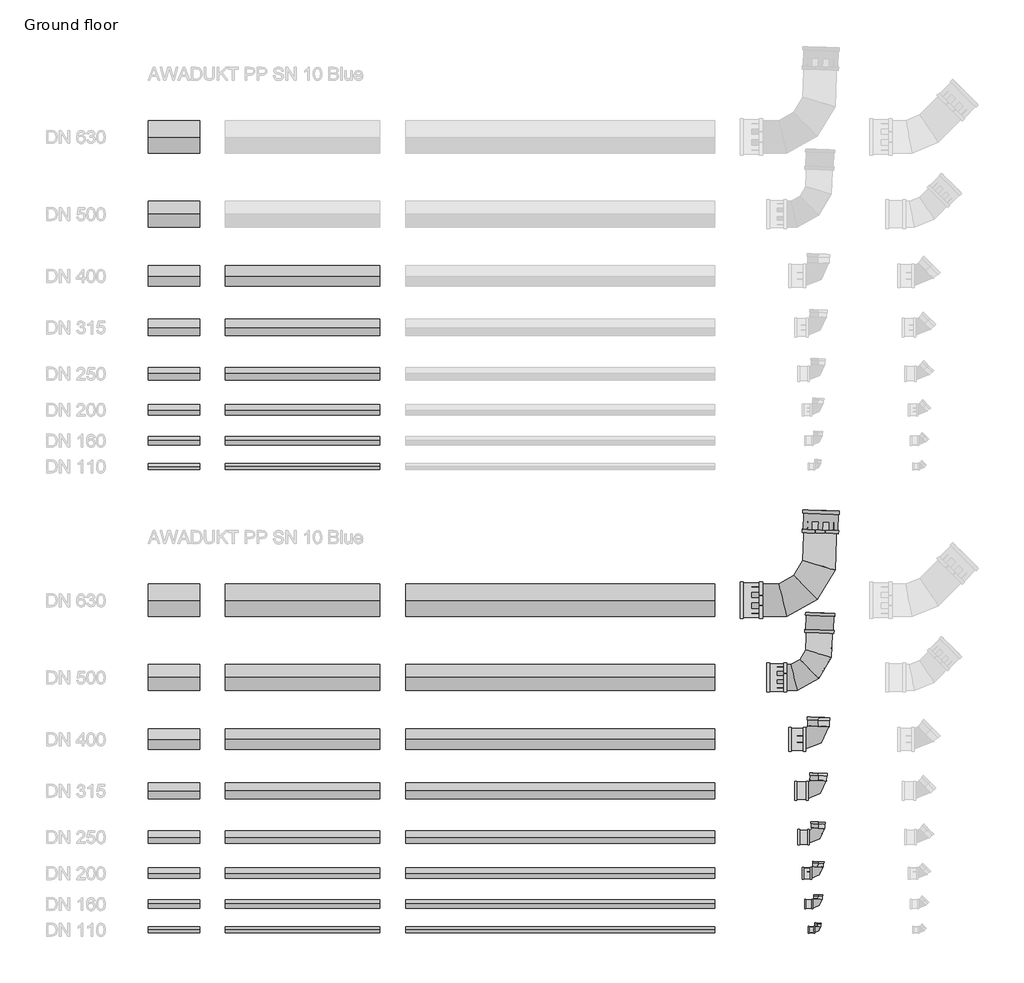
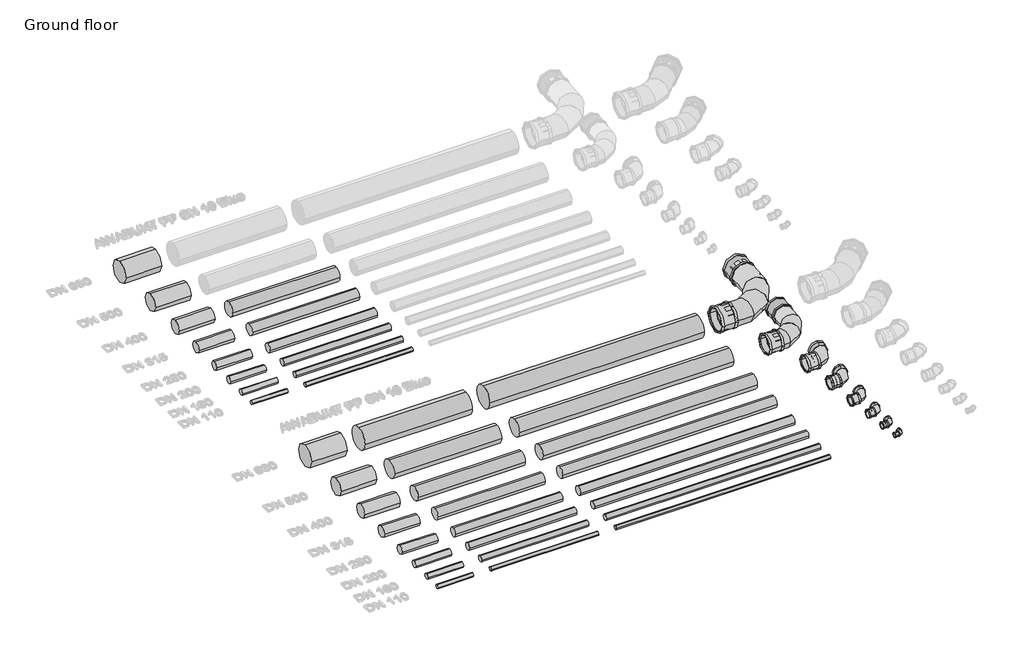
# One storey, part 1 of 14: 38 pipe segments, 18 pipe fittings.
"""IFC4 building model written with IfcOpenShell, lengths in millimetres."""

from ifc_helpers import new_model, si_unit, point, frame, frame_2d, origin, origin_2d, place, context, project, spatial, circle_curve, trimmed, segment, composite_curve, outline, extrude, transform, mapped, element, save
from components import pipe_fitting_366f8f33, pipe_fitting_0ebad727, pipe_fitting_3dc9645f, pipe_fitting_b5a722ff, pipe_fitting_a818c1c7, pipe_fitting_e5a81f0f, pipe_fitting_9bc79c39, pipe_fitting_2c23b5e5, blue_626d8923, blue_a2c14ece, blue_55e6ac91, blue_4c46b765, blue_4c692024, blue_db9835d6, blue_7109e013, blue_2595d2eb

model = new_model("IFC4")

# Units and contexts
model_context = context("Model", 3, world=origin())
ifc_project = project(units=[si_unit("LENGTHUNIT", "METRE", prefix="MILLI")], contexts=[model_context])

# Site, building, storey
site = spatial("IfcSite", under=ifc_project)
building = spatial("IfcBuilding", under=site)
storey = spatial("IfcBuildingStorey", under=building, Name="Ground floor", Elevation=0.0)

# Pipe fittings
placement = place(None, origin())
pipe_fitting_shape = pipe_fitting_366f8f33(model_context)
element("IfcPipeFitting", 1, ObjectType="AWADUKT PP Union DSM : Blue No PID", at=placement, inside=storey, context=model_context, shape_type="MappedRepresentation", body=[
    mapped(pipe_fitting_shape, transform((31055.6434717, 7917.480166, 0.0), x_axis=(0.036643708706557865, 0.9993283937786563, 0.0), y_axis=(-0.9993283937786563, 0.036643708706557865, 0.0), z_axis=(0.0, 0.0, 1.0))),
])
element("IfcPipeFitting", 2, ObjectType="AWADUKT PP Union DSM : Blue No PID", at=placement, inside=storey, context=model_context, shape_type="MappedRepresentation", body=[
    mapped(pipe_fitting_shape, transform((29705.5, 6400.0, 0.0), x_axis=(1.0, 0.0, 0.0), y_axis=(0.0, 1.0, 0.0), z_axis=(0.0, 0.0, 1.0))),
])
pipe_fitting_2_shape = pipe_fitting_0ebad727(model_context)
element("IfcPipeFitting", 3, ObjectType="AWADUKT PP Union DSM : Blue No PID", at=placement, inside=storey, context=model_context, shape_type="MappedRepresentation", body=[
    mapped(pipe_fitting_2_shape, transform((30875.0, 0.0, 0.0), x_axis=(1.0, 0.0, 0.0), y_axis=(0.0, 1.0, 0.0), z_axis=(0.0, 0.0, 1.0))),
])
pipe_fitting_3_shape = pipe_fitting_3dc9645f(model_context)
element("IfcPipeFitting", 4, ObjectType="AWADUKT PP Union DSM : Blue No PID", at=placement, inside=storey, context=model_context, shape_type="MappedRepresentation", body=[
    mapped(pipe_fitting_3_shape, transform((30826.0, 500.0, 0.0), x_axis=(1.0, 0.0, 0.0), y_axis=(0.0, 1.0, 0.0), z_axis=(0.0, 0.0, 1.0))),
])
pipe_fitting_4_shape = pipe_fitting_b5a722ff(model_context)
element("IfcPipeFitting", 5, ObjectType="AWADUKT PP Union DSM : Blue No PID", at=placement, inside=storey, context=model_context, shape_type="MappedRepresentation", body=[
    mapped(pipe_fitting_4_shape, transform((30788.5, 1100.0, 0.0), x_axis=(1.0, 0.0, 0.0), y_axis=(0.0, 1.0, 0.0), z_axis=(0.0, 0.0, 1.0))),
])
pipe_fitting_5_shape = pipe_fitting_a818c1c7(model_context)
element("IfcPipeFitting", 6, ObjectType="AWADUKT PP Union DSM : Blue No PID", at=placement, inside=storey, context=model_context, shape_type="MappedRepresentation", body=[
    mapped(pipe_fitting_5_shape, transform((30722.0, 1800.0, 0.0), x_axis=(1.0, 0.0, 0.0), y_axis=(0.0, 1.0, 0.0), z_axis=(0.0, 0.0, 1.0))),
])
pipe_fitting_6_shape = pipe_fitting_e5a81f0f(model_context)
element("IfcPipeFitting", 7, ObjectType="AWADUKT PP Union DSM : Blue No PID", at=placement, inside=storey, context=model_context, shape_type="MappedRepresentation", body=[
    mapped(pipe_fitting_6_shape, transform((30677.0, 2700.0, 0.0), x_axis=(1.0, 0.0, 0.0), y_axis=(0.0, 1.0, 0.0), z_axis=(0.0, 0.0, 1.0))),
])
pipe_fitting_7_shape = pipe_fitting_9bc79c39(model_context)
element("IfcPipeFitting", 8, ObjectType="AWADUKT PP Union DSM : Blue No PID", at=placement, inside=storey, context=model_context, shape_type="MappedRepresentation", body=[
    mapped(pipe_fitting_7_shape, transform((30597.0, 3700.0, 0.0), x_axis=(1.0, 0.0, 0.0), y_axis=(0.0, 1.0, 0.0), z_axis=(0.0, 0.0, 1.0))),
])
pipe_fitting_8_shape = pipe_fitting_2c23b5e5(model_context)
element("IfcPipeFitting", 9, ObjectType="AWADUKT PP Union DSM : Blue No PID", at=placement, inside=storey, context=model_context, shape_type="MappedRepresentation", body=[
    mapped(pipe_fitting_8_shape, transform((31038.6957564, 5955.2907838, 0.0), x_axis=(0.036643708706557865, 0.9993283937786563, 0.0), y_axis=(-0.9993283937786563, 0.036643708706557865, 0.0), z_axis=(0.0, 0.0, 1.0))),
])
element("IfcPipeFitting", 10, ObjectType="AWADUKT PP Union DSM : Blue No PID", at=placement, inside=storey, context=model_context, shape_type="MappedRepresentation", body=[
    mapped(pipe_fitting_8_shape, transform((30198.0, 4900.0, 0.0), x_axis=(1.0, 0.0, 0.0), y_axis=(0.0, 1.0, 0.0), z_axis=(0.0, 0.0, 1.0))),
])
blue_shape = blue_626d8923(model_context)
element("IfcPipeFitting", 11, ObjectType="AWADUKT PP SN10 SBend : Blue", at=placement, inside=storey, context=model_context, shape_type="MappedRepresentation", body=[
    mapped(blue_shape, transform((31000.0, 4900.0, 0.0), x_axis=(1.0, 0.0, 0.0), y_axis=(0.0, 1.0, 0.0), z_axis=(0.0, 0.0, 1.0))),
])
blue_2_shape = blue_a2c14ece(model_context)
element("IfcPipeFitting", 12, ObjectType="AWADUKT PP SN10 Bend : Blue", at=placement, inside=storey, context=model_context, shape_type="MappedRepresentation", body=[
    mapped(blue_2_shape, transform((31000.0, 0.0, 0.0), x_axis=(1.0, 0.0, 0.0), y_axis=(0.0, 1.0, 0.0), z_axis=(0.0, 0.0, 1.0))),
])
blue_3_shape = blue_55e6ac91(model_context)
element("IfcPipeFitting", 13, ObjectType="AWADUKT PP SN10 Bend : Blue", at=placement, inside=storey, context=model_context, shape_type="MappedRepresentation", body=[
    mapped(blue_3_shape, transform((31000.0, 500.0, 0.0), x_axis=(1.0, 0.0, 0.0), y_axis=(0.0, 1.0, 0.0), z_axis=(0.0, 0.0, 1.0))),
])
blue_4_shape = blue_4c46b765(model_context)
element("IfcPipeFitting", 14, ObjectType="AWADUKT PP SN10 Bend : Blue", at=placement, inside=storey, context=model_context, shape_type="MappedRepresentation", body=[
    mapped(blue_4_shape, transform((31000.0, 1100.0, 0.0), x_axis=(1.0, 0.0, 0.0), y_axis=(0.0, 1.0, 0.0), z_axis=(0.0, 0.0, 1.0))),
])
blue_5_shape = blue_4c692024(model_context)
element("IfcPipeFitting", 15, ObjectType="AWADUKT PP SN10 Bend : Blue", at=placement, inside=storey, context=model_context, shape_type="MappedRepresentation", body=[
    mapped(blue_5_shape, transform((31000.0, 1800.0, 0.0), x_axis=(1.0, 0.0, 0.0), y_axis=(0.0, 1.0, 0.0), z_axis=(0.0, 0.0, 1.0))),
])
blue_6_shape = blue_db9835d6(model_context)
element("IfcPipeFitting", 16, ObjectType="AWADUKT PP SN10 Bend : Blue", at=placement, inside=storey, context=model_context, shape_type="MappedRepresentation", body=[
    mapped(blue_6_shape, transform((31000.0, 2700.0, 0.0), x_axis=(1.0, 0.0, 0.0), y_axis=(0.0, 1.0, 0.0), z_axis=(0.0, 0.0, 1.0))),
])
blue_7_shape = blue_7109e013(model_context)
element("IfcPipeFitting", 17, ObjectType="AWADUKT PP SN10 Bend : Blue", at=placement, inside=storey, context=model_context, shape_type="MappedRepresentation", body=[
    mapped(blue_7_shape, transform((31000.0, 3700.0, 0.0), x_axis=(1.0, 0.0, 0.0), y_axis=(0.0, 1.0, 0.0), z_axis=(0.0, 0.0, 1.0))),
])
blue_8_shape = blue_2595d2eb(model_context)
element("IfcPipeFitting", 18, ObjectType="AWADUKT PP SN10 SBend : Blue", at=placement, inside=storey, context=model_context, shape_type="MappedRepresentation", body=[
    mapped(blue_8_shape, transform((31000.0, 6400.0, 0.0), x_axis=(1.0, 0.0, 0.0), y_axis=(0.0, 1.0, 0.0), z_axis=(0.0, 0.0, 1.0))),
])

# Pipe segments
element("IfcPipeSegment", 19, ObjectType="AWADUKT PP SN10 Blue", at=placement, inside=storey, context=model_context, shape_type="SweptSolid", body=[
    extrude(outline(composite_curve([segment(trimmed(circle_curve(origin_2d(), 55.0), [point((-55.0, 0.0))], [point((0.0, 55.0))], False, "CARTESIAN"), True, "CONTINUOUS"), segment(trimmed(circle_curve(origin_2d(), 55.0), [point((0.0, 55.0))], [point((55.0, 0.0))], False, "CARTESIAN"), True, "CONTINUOUS"), segment(trimmed(circle_curve(origin_2d(), 55.0), [point((55.0, 0.0))], [point((0.0, -55.0))], False, "CARTESIAN"), True, "CONTINUOUS"), segment(trimmed(circle_curve(origin_2d(), 55.0), [point((0.0, -55.0))], [point((-55.0, 0.0))], False, "CARTESIAN"), True, "CONTINUOUS")], self_intersect=False)), frame((18000.0, 0.0, 0.0), z_axis=(1.0, 0.0, 0.0), x_axis=(0.0, 1.0, 0.0)), (0.0, 0.0, 1.0), 1000.0),
])
element("IfcPipeSegment", 20, ObjectType="AWADUKT PP SN10 Blue", at=placement, inside=storey, context=model_context, shape_type="SweptSolid", body=[
    extrude(outline(composite_curve([segment(trimmed(circle_curve(origin_2d(), 55.0), [point((-55.0, 0.0))], [point((0.0, 55.0))], False, "CARTESIAN"), True, "CONTINUOUS"), segment(trimmed(circle_curve(origin_2d(), 55.0), [point((0.0, 55.0))], [point((55.0, 0.0))], False, "CARTESIAN"), True, "CONTINUOUS"), segment(trimmed(circle_curve(origin_2d(), 55.0), [point((55.0, 0.0))], [point((0.0, -55.0))], False, "CARTESIAN"), True, "CONTINUOUS"), segment(trimmed(circle_curve(origin_2d(), 55.0), [point((0.0, -55.0))], [point((-55.0, 0.0))], False, "CARTESIAN"), True, "CONTINUOUS")], self_intersect=False)), frame((19500.0, 0.0, 0.0), z_axis=(1.0, 0.0, 0.0), x_axis=(0.0, 1.0, 0.0)), (0.0, 0.0, 1.0), 3000.0),
])
element("IfcPipeSegment", 21, ObjectType="AWADUKT PP SN10 Blue", at=placement, inside=storey, context=model_context, shape_type="SweptSolid", body=[
    extrude(outline(composite_curve([segment(trimmed(circle_curve(origin_2d(), 55.0), [point((-55.0, 0.0))], [point((0.0, 55.0))], False, "CARTESIAN"), True, "CONTINUOUS"), segment(trimmed(circle_curve(origin_2d(), 55.0), [point((0.0, 55.0))], [point((55.0, 0.0))], False, "CARTESIAN"), True, "CONTINUOUS"), segment(trimmed(circle_curve(origin_2d(), 55.0), [point((55.0, 0.0))], [point((0.0, -55.0))], False, "CARTESIAN"), True, "CONTINUOUS"), segment(trimmed(circle_curve(origin_2d(), 55.0), [point((0.0, -55.0))], [point((-55.0, 0.0))], False, "CARTESIAN"), True, "CONTINUOUS")], self_intersect=False)), frame((23000.0, 0.0, 0.0), z_axis=(1.0, 0.0, 0.0), x_axis=(0.0, 1.0, 0.0)), (0.0, 0.0, 1.0), 6000.0),
])
element("IfcPipeSegment", 22, ObjectType="AWADUKT PP SN10 Blue", at=placement, inside=storey, context=model_context, shape_type="SweptSolid", body=[
    extrude(outline(composite_curve([segment(trimmed(circle_curve(frame_2d((500.0, 0.0)), 80.0), [point((420.0, 0.0))], [point((500.0, 80.0))], False, "CARTESIAN"), True, "CONTINUOUS"), segment(trimmed(circle_curve(frame_2d((500.0, 0.0)), 80.0), [point((500.0, 80.0))], [point((580.0, 0.0))], False, "CARTESIAN"), True, "CONTINUOUS"), segment(trimmed(circle_curve(frame_2d((500.0, 0.0)), 80.0), [point((580.0, 0.0))], [point((500.0, -80.0))], False, "CARTESIAN"), True, "CONTINUOUS"), segment(trimmed(circle_curve(frame_2d((500.0, 0.0)), 80.0), [point((500.0, -80.0))], [point((420.0, 0.0))], False, "CARTESIAN"), True, "CONTINUOUS")], self_intersect=False)), frame((18000.0, 0.0, 0.0), z_axis=(1.0, 0.0, 0.0), x_axis=(0.0, 1.0, 0.0)), (0.0, 0.0, 1.0), 1000.0),
])
element("IfcPipeSegment", 23, ObjectType="AWADUKT PP SN10 Blue", at=placement, inside=storey, context=model_context, shape_type="SweptSolid", body=[
    extrude(outline(composite_curve([segment(trimmed(circle_curve(frame_2d((500.0, 0.0)), 80.0), [point((420.0, 0.0))], [point((500.0, 80.0))], False, "CARTESIAN"), True, "CONTINUOUS"), segment(trimmed(circle_curve(frame_2d((500.0, 0.0)), 80.0), [point((500.0, 80.0))], [point((580.0, 0.0))], False, "CARTESIAN"), True, "CONTINUOUS"), segment(trimmed(circle_curve(frame_2d((500.0, 0.0)), 80.0), [point((580.0, 0.0))], [point((500.0, -80.0))], False, "CARTESIAN"), True, "CONTINUOUS"), segment(trimmed(circle_curve(frame_2d((500.0, 0.0)), 80.0), [point((500.0, -80.0))], [point((420.0, 0.0))], False, "CARTESIAN"), True, "CONTINUOUS")], self_intersect=False)), frame((19500.0, 0.0, 0.0), z_axis=(1.0, 0.0, 0.0), x_axis=(0.0, 1.0, 0.0)), (0.0, 0.0, 1.0), 3000.0),
])
element("IfcPipeSegment", 24, ObjectType="AWADUKT PP SN10 Blue", at=placement, inside=storey, context=model_context, shape_type="SweptSolid", body=[
    extrude(outline(composite_curve([segment(trimmed(circle_curve(frame_2d((500.0, 0.0)), 80.0), [point((420.0, 0.0))], [point((500.0, 80.0))], False, "CARTESIAN"), True, "CONTINUOUS"), segment(trimmed(circle_curve(frame_2d((500.0, 0.0)), 80.0), [point((500.0, 80.0))], [point((580.0, 0.0))], False, "CARTESIAN"), True, "CONTINUOUS"), segment(trimmed(circle_curve(frame_2d((500.0, 0.0)), 80.0), [point((580.0, 0.0))], [point((500.0, -80.0))], False, "CARTESIAN"), True, "CONTINUOUS"), segment(trimmed(circle_curve(frame_2d((500.0, 0.0)), 80.0), [point((500.0, -80.0))], [point((420.0, 0.0))], False, "CARTESIAN"), True, "CONTINUOUS")], self_intersect=False)), frame((23000.0, 0.0, 0.0), z_axis=(1.0, 0.0, 0.0), x_axis=(0.0, 1.0, 0.0)), (0.0, 0.0, 1.0), 6000.0),
])
element("IfcPipeSegment", 25, ObjectType="AWADUKT PP SN10 Blue", at=placement, inside=storey, context=model_context, shape_type="SweptSolid", body=[
    extrude(outline(composite_curve([segment(trimmed(circle_curve(frame_2d((1100.0, 0.0)), 100.0), [point((1000.0, 0.0))], [point((1100.0, 100.0))], False, "CARTESIAN"), True, "CONTINUOUS"), segment(trimmed(circle_curve(frame_2d((1100.0, 0.0)), 100.0), [point((1100.0, 100.0))], [point((1200.0, 0.0))], False, "CARTESIAN"), True, "CONTINUOUS"), segment(trimmed(circle_curve(frame_2d((1100.0, 0.0)), 100.0), [point((1200.0, 0.0))], [point((1100.0, -100.0))], False, "CARTESIAN"), True, "CONTINUOUS"), segment(trimmed(circle_curve(frame_2d((1100.0, 0.0)), 100.0), [point((1100.0, -100.0))], [point((1000.0, 0.0))], False, "CARTESIAN"), True, "CONTINUOUS")], self_intersect=False)), frame((18000.0, 0.0, 0.0), z_axis=(1.0, 0.0, 0.0), x_axis=(0.0, 1.0, 0.0)), (0.0, 0.0, 1.0), 1000.0),
])
element("IfcPipeSegment", 26, ObjectType="AWADUKT PP SN10 Blue", at=placement, inside=storey, context=model_context, shape_type="SweptSolid", body=[
    extrude(outline(composite_curve([segment(trimmed(circle_curve(frame_2d((1100.0, 0.0)), 100.0), [point((1000.0, 0.0))], [point((1100.0, 100.0))], False, "CARTESIAN"), True, "CONTINUOUS"), segment(trimmed(circle_curve(frame_2d((1100.0, 0.0)), 100.0), [point((1100.0, 100.0))], [point((1200.0, 0.0))], False, "CARTESIAN"), True, "CONTINUOUS"), segment(trimmed(circle_curve(frame_2d((1100.0, 0.0)), 100.0), [point((1200.0, 0.0))], [point((1100.0, -100.0))], False, "CARTESIAN"), True, "CONTINUOUS"), segment(trimmed(circle_curve(frame_2d((1100.0, 0.0)), 100.0), [point((1100.0, -100.0))], [point((1000.0, 0.0))], False, "CARTESIAN"), True, "CONTINUOUS")], self_intersect=False)), frame((19500.0, 0.0, 0.0), z_axis=(1.0, 0.0, 0.0), x_axis=(0.0, 1.0, 0.0)), (0.0, 0.0, 1.0), 3000.0),
])
element("IfcPipeSegment", 27, ObjectType="AWADUKT PP SN10 Blue", at=placement, inside=storey, context=model_context, shape_type="SweptSolid", body=[
    extrude(outline(composite_curve([segment(trimmed(circle_curve(frame_2d((1100.0, 0.0)), 100.0), [point((1000.0, 0.0))], [point((1100.0, 100.0))], False, "CARTESIAN"), True, "CONTINUOUS"), segment(trimmed(circle_curve(frame_2d((1100.0, 0.0)), 100.0), [point((1100.0, 100.0))], [point((1200.0, 0.0))], False, "CARTESIAN"), True, "CONTINUOUS"), segment(trimmed(circle_curve(frame_2d((1100.0, 0.0)), 100.0), [point((1200.0, 0.0))], [point((1100.0, -100.0))], False, "CARTESIAN"), True, "CONTINUOUS"), segment(trimmed(circle_curve(frame_2d((1100.0, 0.0)), 100.0), [point((1100.0, -100.0))], [point((1000.0, 0.0))], False, "CARTESIAN"), True, "CONTINUOUS")], self_intersect=False)), frame((23000.0, 0.0, 0.0), z_axis=(1.0, 0.0, 0.0), x_axis=(0.0, 1.0, 0.0)), (0.0, 0.0, 1.0), 6000.0),
])
element("IfcPipeSegment", 28, ObjectType="AWADUKT PP SN10 Blue", at=placement, inside=storey, context=model_context, shape_type="SweptSolid", body=[
    extrude(outline(composite_curve([segment(trimmed(circle_curve(frame_2d((1800.0, 0.0)), 125.0), [point((1675.0, 0.0))], [point((1800.0, 125.0))], False, "CARTESIAN"), True, "CONTINUOUS"), segment(trimmed(circle_curve(frame_2d((1800.0, 0.0)), 125.0), [point((1800.0, 125.0))], [point((1925.0, 0.0))], False, "CARTESIAN"), True, "CONTINUOUS"), segment(trimmed(circle_curve(frame_2d((1800.0, 0.0)), 125.0), [point((1925.0, 0.0))], [point((1800.0, -125.0))], False, "CARTESIAN"), True, "CONTINUOUS"), segment(trimmed(circle_curve(frame_2d((1800.0, 0.0)), 125.0), [point((1800.0, -125.0))], [point((1675.0, 0.0))], False, "CARTESIAN"), True, "CONTINUOUS")], self_intersect=False)), frame((18000.0, 0.0, 0.0), z_axis=(1.0, 0.0, 0.0), x_axis=(0.0, 1.0, 0.0)), (0.0, 0.0, 1.0), 1000.0),
])
element("IfcPipeSegment", 29, ObjectType="AWADUKT PP SN10 Blue", at=placement, inside=storey, context=model_context, shape_type="SweptSolid", body=[
    extrude(outline(composite_curve([segment(trimmed(circle_curve(frame_2d((1800.0, 0.0)), 125.0), [point((1675.0, 0.0))], [point((1800.0, 125.0))], False, "CARTESIAN"), True, "CONTINUOUS"), segment(trimmed(circle_curve(frame_2d((1800.0, 0.0)), 125.0), [point((1800.0, 125.0))], [point((1925.0, 0.0))], False, "CARTESIAN"), True, "CONTINUOUS"), segment(trimmed(circle_curve(frame_2d((1800.0, 0.0)), 125.0), [point((1925.0, 0.0))], [point((1800.0, -125.0))], False, "CARTESIAN"), True, "CONTINUOUS"), segment(trimmed(circle_curve(frame_2d((1800.0, 0.0)), 125.0), [point((1800.0, -125.0))], [point((1675.0, 0.0))], False, "CARTESIAN"), True, "CONTINUOUS")], self_intersect=False)), frame((19500.0, 0.0, 0.0), z_axis=(1.0, 0.0, 0.0), x_axis=(0.0, 1.0, 0.0)), (0.0, 0.0, 1.0), 3000.0),
])
element("IfcPipeSegment", 30, ObjectType="AWADUKT PP SN10 Blue", at=placement, inside=storey, context=model_context, shape_type="SweptSolid", body=[
    extrude(outline(composite_curve([segment(trimmed(circle_curve(frame_2d((1800.0, 0.0)), 125.0), [point((1675.0, 0.0))], [point((1800.0, 125.0))], False, "CARTESIAN"), True, "CONTINUOUS"), segment(trimmed(circle_curve(frame_2d((1800.0, 0.0)), 125.0), [point((1800.0, 125.0))], [point((1925.0, 0.0))], False, "CARTESIAN"), True, "CONTINUOUS"), segment(trimmed(circle_curve(frame_2d((1800.0, 0.0)), 125.0), [point((1925.0, 0.0))], [point((1800.0, -125.0))], False, "CARTESIAN"), True, "CONTINUOUS"), segment(trimmed(circle_curve(frame_2d((1800.0, 0.0)), 125.0), [point((1800.0, -125.0))], [point((1675.0, 0.0))], False, "CARTESIAN"), True, "CONTINUOUS")], self_intersect=False)), frame((23000.0, 0.0, 0.0), z_axis=(1.0, 0.0, 0.0), x_axis=(0.0, 1.0, 0.0)), (0.0, 0.0, 1.0), 6000.0),
])
element("IfcPipeSegment", 31, ObjectType="AWADUKT PP SN10 Blue", at=placement, inside=storey, context=model_context, shape_type="SweptSolid", body=[
    extrude(outline(composite_curve([segment(trimmed(circle_curve(frame_2d((2700.0, 0.0)), 157.5), [point((2542.5, 0.0))], [point((2700.0, 157.5))], False, "CARTESIAN"), True, "CONTINUOUS"), segment(trimmed(circle_curve(frame_2d((2700.0, 0.0)), 157.5), [point((2700.0, 157.5))], [point((2857.5, 0.0))], False, "CARTESIAN"), True, "CONTINUOUS"), segment(trimmed(circle_curve(frame_2d((2700.0, 0.0)), 157.5), [point((2857.5, 0.0))], [point((2700.0, -157.5))], False, "CARTESIAN"), True, "CONTINUOUS"), segment(trimmed(circle_curve(frame_2d((2700.0, 0.0)), 157.5), [point((2700.0, -157.5))], [point((2542.5, 0.0))], False, "CARTESIAN"), True, "CONTINUOUS")], self_intersect=False)), frame((18000.0, 0.0, 0.0), z_axis=(1.0, 0.0, 0.0), x_axis=(0.0, 1.0, 0.0)), (0.0, 0.0, 1.0), 1000.0),
])
element("IfcPipeSegment", 32, ObjectType="AWADUKT PP SN10 Blue", at=placement, inside=storey, context=model_context, shape_type="SweptSolid", body=[
    extrude(outline(composite_curve([segment(trimmed(circle_curve(frame_2d((2700.0, 0.0)), 157.5), [point((2542.5, 0.0))], [point((2700.0, 157.5))], False, "CARTESIAN"), True, "CONTINUOUS"), segment(trimmed(circle_curve(frame_2d((2700.0, 0.0)), 157.5), [point((2700.0, 157.5))], [point((2857.5, 0.0))], False, "CARTESIAN"), True, "CONTINUOUS"), segment(trimmed(circle_curve(frame_2d((2700.0, 0.0)), 157.5), [point((2857.5, 0.0))], [point((2700.0, -157.5))], False, "CARTESIAN"), True, "CONTINUOUS"), segment(trimmed(circle_curve(frame_2d((2700.0, 0.0)), 157.5), [point((2700.0, -157.5))], [point((2542.5, 0.0))], False, "CARTESIAN"), True, "CONTINUOUS")], self_intersect=False)), frame((19500.0, 0.0, 0.0), z_axis=(1.0, 0.0, 0.0), x_axis=(0.0, 1.0, 0.0)), (0.0, 0.0, 1.0), 3000.0),
])
element("IfcPipeSegment", 33, ObjectType="AWADUKT PP SN10 Blue", at=placement, inside=storey, context=model_context, shape_type="SweptSolid", body=[
    extrude(outline(composite_curve([segment(trimmed(circle_curve(frame_2d((2700.0, 0.0)), 157.5), [point((2542.5, 0.0))], [point((2700.0, 157.5))], False, "CARTESIAN"), True, "CONTINUOUS"), segment(trimmed(circle_curve(frame_2d((2700.0, 0.0)), 157.5), [point((2700.0, 157.5))], [point((2857.5, 0.0))], False, "CARTESIAN"), True, "CONTINUOUS"), segment(trimmed(circle_curve(frame_2d((2700.0, 0.0)), 157.5), [point((2857.5, 0.0))], [point((2700.0, -157.5))], False, "CARTESIAN"), True, "CONTINUOUS"), segment(trimmed(circle_curve(frame_2d((2700.0, 0.0)), 157.5), [point((2700.0, -157.5))], [point((2542.5, 0.0))], False, "CARTESIAN"), True, "CONTINUOUS")], self_intersect=False)), frame((23000.0, 0.0, 0.0), z_axis=(1.0, 0.0, 0.0), x_axis=(0.0, 1.0, 0.0)), (0.0, 0.0, 1.0), 6000.0),
])
element("IfcPipeSegment", 34, ObjectType="AWADUKT PP SN10 Blue", at=placement, inside=storey, context=model_context, shape_type="SweptSolid", body=[
    extrude(outline(composite_curve([segment(trimmed(circle_curve(frame_2d((3700.0, 0.0)), 200.0), [point((3500.0, 0.0))], [point((3700.0, 200.0))], False, "CARTESIAN"), True, "CONTINUOUS"), segment(trimmed(circle_curve(frame_2d((3700.0, 0.0)), 200.0), [point((3700.0, 200.0))], [point((3900.0, 0.0))], False, "CARTESIAN"), True, "CONTINUOUS"), segment(trimmed(circle_curve(frame_2d((3700.0, 0.0)), 200.0), [point((3900.0, 0.0))], [point((3700.0, -200.0))], False, "CARTESIAN"), True, "CONTINUOUS"), segment(trimmed(circle_curve(frame_2d((3700.0, 0.0)), 200.0), [point((3700.0, -200.0))], [point((3500.0, 0.0))], False, "CARTESIAN"), True, "CONTINUOUS")], self_intersect=False)), frame((18000.0, 0.0, 0.0), z_axis=(1.0, 0.0, 0.0), x_axis=(0.0, 1.0, 0.0)), (0.0, 0.0, 1.0), 1000.0),
])
element("IfcPipeSegment", 35, ObjectType="AWADUKT PP SN10 Blue", at=placement, inside=storey, context=model_context, shape_type="SweptSolid", body=[
    extrude(outline(composite_curve([segment(trimmed(circle_curve(frame_2d((3700.0, 0.0)), 200.0), [point((3500.0, 0.0))], [point((3700.0, 200.0))], False, "CARTESIAN"), True, "CONTINUOUS"), segment(trimmed(circle_curve(frame_2d((3700.0, 0.0)), 200.0), [point((3700.0, 200.0))], [point((3900.0, 0.0))], False, "CARTESIAN"), True, "CONTINUOUS"), segment(trimmed(circle_curve(frame_2d((3700.0, 0.0)), 200.0), [point((3900.0, 0.0))], [point((3700.0, -200.0))], False, "CARTESIAN"), True, "CONTINUOUS"), segment(trimmed(circle_curve(frame_2d((3700.0, 0.0)), 200.0), [point((3700.0, -200.0))], [point((3500.0, 0.0))], False, "CARTESIAN"), True, "CONTINUOUS")], self_intersect=False)), frame((19500.0, 0.0, 0.0), z_axis=(1.0, 0.0, 0.0), x_axis=(0.0, 1.0, 0.0)), (0.0, 0.0, 1.0), 3000.0),
])
element("IfcPipeSegment", 36, ObjectType="AWADUKT PP SN10 Blue", at=placement, inside=storey, context=model_context, shape_type="SweptSolid", body=[
    extrude(outline(composite_curve([segment(trimmed(circle_curve(frame_2d((3700.0, 0.0)), 200.0), [point((3500.0, 0.0))], [point((3700.0, 200.0))], False, "CARTESIAN"), True, "CONTINUOUS"), segment(trimmed(circle_curve(frame_2d((3700.0, 0.0)), 200.0), [point((3700.0, 200.0))], [point((3900.0, 0.0))], False, "CARTESIAN"), True, "CONTINUOUS"), segment(trimmed(circle_curve(frame_2d((3700.0, 0.0)), 200.0), [point((3900.0, 0.0))], [point((3700.0, -200.0))], False, "CARTESIAN"), True, "CONTINUOUS"), segment(trimmed(circle_curve(frame_2d((3700.0, 0.0)), 200.0), [point((3700.0, -200.0))], [point((3500.0, 0.0))], False, "CARTESIAN"), True, "CONTINUOUS")], self_intersect=False)), frame((23000.0, 0.0, 0.0), z_axis=(1.0, 0.0, 0.0), x_axis=(0.0, 1.0, 0.0)), (0.0, 0.0, 1.0), 6000.0),
])
element("IfcPipeSegment", 37, ObjectType="AWADUKT PP SN10 Blue", at=placement, inside=storey, context=model_context, shape_type="SweptSolid", body=[
    extrude(outline(composite_curve([segment(trimmed(circle_curve(frame_2d((4900.0, 0.0)), 250.0), [point((4650.0, 0.0))], [point((4900.0, 250.0))], False, "CARTESIAN"), True, "CONTINUOUS"), segment(trimmed(circle_curve(frame_2d((4900.0, 0.0)), 250.0), [point((4900.0, 250.0))], [point((5150.0, 0.0))], False, "CARTESIAN"), True, "CONTINUOUS"), segment(trimmed(circle_curve(frame_2d((4900.0, 0.0)), 250.0), [point((5150.0, 0.0))], [point((4900.0, -250.0))], False, "CARTESIAN"), True, "CONTINUOUS"), segment(trimmed(circle_curve(frame_2d((4900.0, 0.0)), 250.0), [point((4900.0, -250.0))], [point((4650.0, 0.0))], False, "CARTESIAN"), True, "CONTINUOUS")], self_intersect=False)), frame((18000.0, 0.0, 0.0), z_axis=(1.0, 0.0, 0.0), x_axis=(0.0, 1.0, 0.0)), (0.0, 0.0, 1.0), 1000.0),
])
element("IfcPipeSegment", 38, ObjectType="AWADUKT PP SN10 Blue", at=placement, inside=storey, context=model_context, shape_type="SweptSolid", body=[
    extrude(outline(composite_curve([segment(trimmed(circle_curve(frame_2d((4900.0, 0.0)), 250.0), [point((4650.0, 0.0))], [point((4900.0, 250.0))], False, "CARTESIAN"), True, "CONTINUOUS"), segment(trimmed(circle_curve(frame_2d((4900.0, 0.0)), 250.0), [point((4900.0, 250.0))], [point((5150.0, 0.0))], False, "CARTESIAN"), True, "CONTINUOUS"), segment(trimmed(circle_curve(frame_2d((4900.0, 0.0)), 250.0), [point((5150.0, 0.0))], [point((4900.0, -250.0))], False, "CARTESIAN"), True, "CONTINUOUS"), segment(trimmed(circle_curve(frame_2d((4900.0, 0.0)), 250.0), [point((4900.0, -250.0))], [point((4650.0, 0.0))], False, "CARTESIAN"), True, "CONTINUOUS")], self_intersect=False)), frame((19500.0, 0.0, 0.0), z_axis=(1.0, 0.0, 0.0), x_axis=(0.0, 1.0, 0.0)), (0.0, 0.0, 1.0), 3000.0),
])
element("IfcPipeSegment", 39, ObjectType="AWADUKT PP SN10 Blue", at=placement, inside=storey, context=model_context, shape_type="SweptSolid", body=[
    extrude(outline(composite_curve([segment(trimmed(circle_curve(frame_2d((4900.0, 0.0)), 250.0), [point((4650.0, 0.0))], [point((4900.0, 250.0))], False, "CARTESIAN"), True, "CONTINUOUS"), segment(trimmed(circle_curve(frame_2d((4900.0, 0.0)), 250.0), [point((4900.0, 250.0))], [point((5150.0, 0.0))], False, "CARTESIAN"), True, "CONTINUOUS"), segment(trimmed(circle_curve(frame_2d((4900.0, 0.0)), 250.0), [point((5150.0, 0.0))], [point((4900.0, -250.0))], False, "CARTESIAN"), True, "CONTINUOUS"), segment(trimmed(circle_curve(frame_2d((4900.0, 0.0)), 250.0), [point((4900.0, -250.0))], [point((4650.0, 0.0))], False, "CARTESIAN"), True, "CONTINUOUS")], self_intersect=False)), frame((23000.0, 0.0, 0.0), z_axis=(1.0, 0.0, 0.0), x_axis=(0.0, 1.0, 0.0)), (0.0, 0.0, 1.0), 6000.0),
])
element("IfcPipeSegment", 40, ObjectType="AWADUKT PP SN10 Blue", at=placement, inside=storey, context=model_context, shape_type="SweptSolid", body=[
    extrude(outline(composite_curve([segment(trimmed(circle_curve(frame_2d((6400.0, 0.0)), 315.0), [point((6085.0, 0.0))], [point((6400.0, 315.0))], False, "CARTESIAN"), True, "CONTINUOUS"), segment(trimmed(circle_curve(frame_2d((6400.0, 0.0)), 315.0), [point((6400.0, 315.0))], [point((6715.0, 0.0))], False, "CARTESIAN"), True, "CONTINUOUS"), segment(trimmed(circle_curve(frame_2d((6400.0, 0.0)), 315.0), [point((6715.0, 0.0))], [point((6400.0, -315.0))], False, "CARTESIAN"), True, "CONTINUOUS"), segment(trimmed(circle_curve(frame_2d((6400.0, 0.0)), 315.0), [point((6400.0, -315.0))], [point((6085.0, 0.0))], False, "CARTESIAN"), True, "CONTINUOUS")], self_intersect=False)), frame((18000.0, 0.0, 0.0), z_axis=(1.0, 0.0, 0.0), x_axis=(0.0, 1.0, 0.0)), (0.0, 0.0, 1.0), 1000.0),
])
element("IfcPipeSegment", 41, ObjectType="AWADUKT PP SN10 Blue", at=placement, inside=storey, context=model_context, shape_type="SweptSolid", body=[
    extrude(outline(composite_curve([segment(trimmed(circle_curve(frame_2d((6400.0, 0.0)), 315.0), [point((6085.0, 0.0))], [point((6400.0, 315.0))], False, "CARTESIAN"), True, "CONTINUOUS"), segment(trimmed(circle_curve(frame_2d((6400.0, 0.0)), 315.0), [point((6400.0, 315.0))], [point((6715.0, 0.0))], False, "CARTESIAN"), True, "CONTINUOUS"), segment(trimmed(circle_curve(frame_2d((6400.0, 0.0)), 315.0), [point((6715.0, 0.0))], [point((6400.0, -315.0))], False, "CARTESIAN"), True, "CONTINUOUS"), segment(trimmed(circle_curve(frame_2d((6400.0, 0.0)), 315.0), [point((6400.0, -315.0))], [point((6085.0, 0.0))], False, "CARTESIAN"), True, "CONTINUOUS")], self_intersect=False)), frame((19500.0, 0.0, 0.0), z_axis=(1.0, 0.0, 0.0), x_axis=(0.0, 1.0, 0.0)), (0.0, 0.0, 1.0), 3000.0),
])
element("IfcPipeSegment", 42, ObjectType="AWADUKT PP SN10 Blue", at=placement, inside=storey, context=model_context, shape_type="SweptSolid", body=[
    extrude(outline(composite_curve([segment(trimmed(circle_curve(frame_2d((6400.0, 0.0)), 315.0), [point((6085.0, 0.0))], [point((6400.0, 315.0))], False, "CARTESIAN"), True, "CONTINUOUS"), segment(trimmed(circle_curve(frame_2d((6400.0, 0.0)), 315.0), [point((6400.0, 315.0))], [point((6715.0, 0.0))], False, "CARTESIAN"), True, "CONTINUOUS"), segment(trimmed(circle_curve(frame_2d((6400.0, 0.0)), 315.0), [point((6715.0, 0.0))], [point((6400.0, -315.0))], False, "CARTESIAN"), True, "CONTINUOUS"), segment(trimmed(circle_curve(frame_2d((6400.0, 0.0)), 315.0), [point((6400.0, -315.0))], [point((6085.0, 0.0))], False, "CARTESIAN"), True, "CONTINUOUS")], self_intersect=False)), frame((23000.0, 0.0, 0.0), z_axis=(1.0, 0.0, 0.0), x_axis=(0.0, 1.0, 0.0)), (0.0, 0.0, 1.0), 6000.0),
])
element("IfcPipeSegment", 43, ObjectType="AWADUKT PP SN10", at=placement, inside=storey, context=model_context, shape_type="SweptSolid", body=[
    extrude(outline(composite_curve([segment(trimmed(circle_curve(frame_2d((9000.0, 0.0)), 55.0), [point((8945.0, 0.0))], [point((9000.0, 55.0))], False, "CARTESIAN"), True, "CONTINUOUS"), segment(trimmed(circle_curve(frame_2d((9000.0, 0.0)), 55.0), [point((9000.0, 55.0))], [point((9055.0, 0.0))], False, "CARTESIAN"), True, "CONTINUOUS"), segment(trimmed(circle_curve(frame_2d((9000.0, 0.0)), 55.0), [point((9055.0, 0.0))], [point((9000.0, -55.0))], False, "CARTESIAN"), True, "CONTINUOUS"), segment(trimmed(circle_curve(frame_2d((9000.0, 0.0)), 55.0), [point((9000.0, -55.0))], [point((8945.0, 0.0))], False, "CARTESIAN"), True, "CONTINUOUS")], self_intersect=False)), frame((18000.0, 0.0, 0.0), z_axis=(1.0, 0.0, 0.0), x_axis=(0.0, 1.0, 0.0)), (0.0, 0.0, 1.0), 1000.0),
])
element("IfcPipeSegment", 44, ObjectType="AWADUKT PP SN10", at=placement, inside=storey, context=model_context, shape_type="SweptSolid", body=[
    extrude(outline(composite_curve([segment(trimmed(circle_curve(frame_2d((9000.0, 0.0)), 55.0), [point((8945.0, 0.0))], [point((9000.0, 55.0))], False, "CARTESIAN"), True, "CONTINUOUS"), segment(trimmed(circle_curve(frame_2d((9000.0, 0.0)), 55.0), [point((9000.0, 55.0))], [point((9055.0, 0.0))], False, "CARTESIAN"), True, "CONTINUOUS"), segment(trimmed(circle_curve(frame_2d((9000.0, 0.0)), 55.0), [point((9055.0, 0.0))], [point((9000.0, -55.0))], False, "CARTESIAN"), True, "CONTINUOUS"), segment(trimmed(circle_curve(frame_2d((9000.0, 0.0)), 55.0), [point((9000.0, -55.0))], [point((8945.0, 0.0))], False, "CARTESIAN"), True, "CONTINUOUS")], self_intersect=False)), frame((19500.0, 0.0, 0.0), z_axis=(1.0, 0.0, 0.0), x_axis=(0.0, 1.0, 0.0)), (0.0, 0.0, 1.0), 3000.0),
])
element("IfcPipeSegment", 45, ObjectType="AWADUKT PP SN10", at=placement, inside=storey, context=model_context, shape_type="SweptSolid", body=[
    extrude(outline(composite_curve([segment(trimmed(circle_curve(frame_2d((9500.0, 0.0)), 80.0), [point((9420.0, 0.0))], [point((9500.0, 80.0))], False, "CARTESIAN"), True, "CONTINUOUS"), segment(trimmed(circle_curve(frame_2d((9500.0, 0.0)), 80.0), [point((9500.0, 80.0))], [point((9580.0, 0.0))], False, "CARTESIAN"), True, "CONTINUOUS"), segment(trimmed(circle_curve(frame_2d((9500.0, 0.0)), 80.0), [point((9580.0, 0.0))], [point((9500.0, -80.0))], False, "CARTESIAN"), True, "CONTINUOUS"), segment(trimmed(circle_curve(frame_2d((9500.0, 0.0)), 80.0), [point((9500.0, -80.0))], [point((9420.0, 0.0))], False, "CARTESIAN"), True, "CONTINUOUS")], self_intersect=False)), frame((18000.0, 0.0, 0.0), z_axis=(1.0, 0.0, 0.0), x_axis=(0.0, 1.0, 0.0)), (0.0, 0.0, 1.0), 1000.0),
])
element("IfcPipeSegment", 46, ObjectType="AWADUKT PP SN10", at=placement, inside=storey, context=model_context, shape_type="SweptSolid", body=[
    extrude(outline(composite_curve([segment(trimmed(circle_curve(frame_2d((9500.0, 0.0)), 80.0), [point((9420.0, 0.0))], [point((9500.0, 80.0))], False, "CARTESIAN"), True, "CONTINUOUS"), segment(trimmed(circle_curve(frame_2d((9500.0, 0.0)), 80.0), [point((9500.0, 80.0))], [point((9580.0, 0.0))], False, "CARTESIAN"), True, "CONTINUOUS"), segment(trimmed(circle_curve(frame_2d((9500.0, 0.0)), 80.0), [point((9580.0, 0.0))], [point((9500.0, -80.0))], False, "CARTESIAN"), True, "CONTINUOUS"), segment(trimmed(circle_curve(frame_2d((9500.0, 0.0)), 80.0), [point((9500.0, -80.0))], [point((9420.0, 0.0))], False, "CARTESIAN"), True, "CONTINUOUS")], self_intersect=False)), frame((19500.0, 0.0, 0.0), z_axis=(1.0, 0.0, 0.0), x_axis=(0.0, 1.0, 0.0)), (0.0, 0.0, 1.0), 3000.0),
])
element("IfcPipeSegment", 47, ObjectType="AWADUKT PP SN10", at=placement, inside=storey, context=model_context, shape_type="SweptSolid", body=[
    extrude(outline(composite_curve([segment(trimmed(circle_curve(frame_2d((10100.0, 0.0)), 100.0), [point((10000.0, 0.0))], [point((10100.0, 100.0))], False, "CARTESIAN"), True, "CONTINUOUS"), segment(trimmed(circle_curve(frame_2d((10100.0, 0.0)), 100.0), [point((10100.0, 100.0))], [point((10200.0, 0.0))], False, "CARTESIAN"), True, "CONTINUOUS"), segment(trimmed(circle_curve(frame_2d((10100.0, 0.0)), 100.0), [point((10200.0, 0.0))], [point((10100.0, -100.0))], False, "CARTESIAN"), True, "CONTINUOUS"), segment(trimmed(circle_curve(frame_2d((10100.0, 0.0)), 100.0), [point((10100.0, -100.0))], [point((10000.0, 0.0))], False, "CARTESIAN"), True, "CONTINUOUS")], self_intersect=False)), frame((18000.0, 0.0, 0.0), z_axis=(1.0, 0.0, 0.0), x_axis=(0.0, 1.0, 0.0)), (0.0, 0.0, 1.0), 1000.0),
])
element("IfcPipeSegment", 48, ObjectType="AWADUKT PP SN10", at=placement, inside=storey, context=model_context, shape_type="SweptSolid", body=[
    extrude(outline(composite_curve([segment(trimmed(circle_curve(frame_2d((10100.0, 0.0)), 100.0), [point((10000.0, 0.0))], [point((10100.0, 100.0))], False, "CARTESIAN"), True, "CONTINUOUS"), segment(trimmed(circle_curve(frame_2d((10100.0, 0.0)), 100.0), [point((10100.0, 100.0))], [point((10200.0, 0.0))], False, "CARTESIAN"), True, "CONTINUOUS"), segment(trimmed(circle_curve(frame_2d((10100.0, 0.0)), 100.0), [point((10200.0, 0.0))], [point((10100.0, -100.0))], False, "CARTESIAN"), True, "CONTINUOUS"), segment(trimmed(circle_curve(frame_2d((10100.0, 0.0)), 100.0), [point((10100.0, -100.0))], [point((10000.0, 0.0))], False, "CARTESIAN"), True, "CONTINUOUS")], self_intersect=False)), frame((19500.0, 0.0, 0.0), z_axis=(1.0, 0.0, 0.0), x_axis=(0.0, 1.0, 0.0)), (0.0, 0.0, 1.0), 3000.0),
])
element("IfcPipeSegment", 49, ObjectType="AWADUKT PP SN10", at=placement, inside=storey, context=model_context, shape_type="SweptSolid", body=[
    extrude(outline(composite_curve([segment(trimmed(circle_curve(frame_2d((10800.0, 0.0)), 125.0), [point((10675.0, 0.0))], [point((10800.0, 125.0))], False, "CARTESIAN"), True, "CONTINUOUS"), segment(trimmed(circle_curve(frame_2d((10800.0, 0.0)), 125.0), [point((10800.0, 125.0))], [point((10925.0, 0.0))], False, "CARTESIAN"), True, "CONTINUOUS"), segment(trimmed(circle_curve(frame_2d((10800.0, 0.0)), 125.0), [point((10925.0, 0.0))], [point((10800.0, -125.0))], False, "CARTESIAN"), True, "CONTINUOUS"), segment(trimmed(circle_curve(frame_2d((10800.0, 0.0)), 125.0), [point((10800.0, -125.0))], [point((10675.0, 0.0))], False, "CARTESIAN"), True, "CONTINUOUS")], self_intersect=False)), frame((18000.0, 0.0, 0.0), z_axis=(1.0, 0.0, 0.0), x_axis=(0.0, 1.0, 0.0)), (0.0, 0.0, 1.0), 1000.0),
])
element("IfcPipeSegment", 50, ObjectType="AWADUKT PP SN10", at=placement, inside=storey, context=model_context, shape_type="SweptSolid", body=[
    extrude(outline(composite_curve([segment(trimmed(circle_curve(frame_2d((10800.0, 0.0)), 125.0), [point((10675.0, 0.0))], [point((10800.0, 125.0))], False, "CARTESIAN"), True, "CONTINUOUS"), segment(trimmed(circle_curve(frame_2d((10800.0, 0.0)), 125.0), [point((10800.0, 125.0))], [point((10925.0, 0.0))], False, "CARTESIAN"), True, "CONTINUOUS"), segment(trimmed(circle_curve(frame_2d((10800.0, 0.0)), 125.0), [point((10925.0, 0.0))], [point((10800.0, -125.0))], False, "CARTESIAN"), True, "CONTINUOUS"), segment(trimmed(circle_curve(frame_2d((10800.0, 0.0)), 125.0), [point((10800.0, -125.0))], [point((10675.0, 0.0))], False, "CARTESIAN"), True, "CONTINUOUS")], self_intersect=False)), frame((19500.0, 0.0, 0.0), z_axis=(1.0, 0.0, 0.0), x_axis=(0.0, 1.0, 0.0)), (0.0, 0.0, 1.0), 3000.0),
])
element("IfcPipeSegment", 51, ObjectType="AWADUKT PP SN10", at=placement, inside=storey, context=model_context, shape_type="SweptSolid", body=[
    extrude(outline(composite_curve([segment(trimmed(circle_curve(frame_2d((11700.0, 0.0)), 157.5), [point((11542.5, 0.0))], [point((11700.0, 157.5))], False, "CARTESIAN"), True, "CONTINUOUS"), segment(trimmed(circle_curve(frame_2d((11700.0, 0.0)), 157.5), [point((11700.0, 157.5))], [point((11857.5, 0.0))], False, "CARTESIAN"), True, "CONTINUOUS"), segment(trimmed(circle_curve(frame_2d((11700.0, 0.0)), 157.5), [point((11857.5, 0.0))], [point((11700.0, -157.5))], False, "CARTESIAN"), True, "CONTINUOUS"), segment(trimmed(circle_curve(frame_2d((11700.0, 0.0)), 157.5), [point((11700.0, -157.5))], [point((11542.5, 0.0))], False, "CARTESIAN"), True, "CONTINUOUS")], self_intersect=False)), frame((18000.0, 0.0, 0.0), z_axis=(1.0, 0.0, 0.0), x_axis=(0.0, 1.0, 0.0)), (0.0, 0.0, 1.0), 1000.0),
])
element("IfcPipeSegment", 52, ObjectType="AWADUKT PP SN10", at=placement, inside=storey, context=model_context, shape_type="SweptSolid", body=[
    extrude(outline(composite_curve([segment(trimmed(circle_curve(frame_2d((11700.0, 0.0)), 157.5), [point((11542.5, 0.0))], [point((11700.0, 157.5))], False, "CARTESIAN"), True, "CONTINUOUS"), segment(trimmed(circle_curve(frame_2d((11700.0, 0.0)), 157.5), [point((11700.0, 157.5))], [point((11857.5, 0.0))], False, "CARTESIAN"), True, "CONTINUOUS"), segment(trimmed(circle_curve(frame_2d((11700.0, 0.0)), 157.5), [point((11857.5, 0.0))], [point((11700.0, -157.5))], False, "CARTESIAN"), True, "CONTINUOUS"), segment(trimmed(circle_curve(frame_2d((11700.0, 0.0)), 157.5), [point((11700.0, -157.5))], [point((11542.5, 0.0))], False, "CARTESIAN"), True, "CONTINUOUS")], self_intersect=False)), frame((19500.0, 0.0, 0.0), z_axis=(1.0, 0.0, 0.0), x_axis=(0.0, 1.0, 0.0)), (0.0, 0.0, 1.0), 3000.0),
])
element("IfcPipeSegment", 53, ObjectType="AWADUKT PP SN10", at=placement, inside=storey, context=model_context, shape_type="SweptSolid", body=[
    extrude(outline(composite_curve([segment(trimmed(circle_curve(frame_2d((12700.0, 0.0)), 200.0), [point((12500.0, 0.0))], [point((12700.0, 200.0))], False, "CARTESIAN"), True, "CONTINUOUS"), segment(trimmed(circle_curve(frame_2d((12700.0, 0.0)), 200.0), [point((12700.0, 200.0))], [point((12900.0, 0.0))], False, "CARTESIAN"), True, "CONTINUOUS"), segment(trimmed(circle_curve(frame_2d((12700.0, 0.0)), 200.0), [point((12900.0, 0.0))], [point((12700.0, -200.0))], False, "CARTESIAN"), True, "CONTINUOUS"), segment(trimmed(circle_curve(frame_2d((12700.0, 0.0)), 200.0), [point((12700.0, -200.0))], [point((12500.0, 0.0))], False, "CARTESIAN"), True, "CONTINUOUS")], self_intersect=False)), frame((18000.0, 0.0, 0.0), z_axis=(1.0, 0.0, 0.0), x_axis=(0.0, 1.0, 0.0)), (0.0, 0.0, 1.0), 1000.0),
])
element("IfcPipeSegment", 54, ObjectType="AWADUKT PP SN10", at=placement, inside=storey, context=model_context, shape_type="SweptSolid", body=[
    extrude(outline(composite_curve([segment(trimmed(circle_curve(frame_2d((12700.0, 0.0)), 200.0), [point((12500.0, 0.0))], [point((12700.0, 200.0))], False, "CARTESIAN"), True, "CONTINUOUS"), segment(trimmed(circle_curve(frame_2d((12700.0, 0.0)), 200.0), [point((12700.0, 200.0))], [point((12900.0, 0.0))], False, "CARTESIAN"), True, "CONTINUOUS"), segment(trimmed(circle_curve(frame_2d((12700.0, 0.0)), 200.0), [point((12900.0, 0.0))], [point((12700.0, -200.0))], False, "CARTESIAN"), True, "CONTINUOUS"), segment(trimmed(circle_curve(frame_2d((12700.0, 0.0)), 200.0), [point((12700.0, -200.0))], [point((12500.0, 0.0))], False, "CARTESIAN"), True, "CONTINUOUS")], self_intersect=False)), frame((19500.0, 0.0, 0.0), z_axis=(1.0, 0.0, 0.0), x_axis=(0.0, 1.0, 0.0)), (0.0, 0.0, 1.0), 3000.0),
])
element("IfcPipeSegment", 55, ObjectType="AWADUKT PP SN10", at=placement, inside=storey, context=model_context, shape_type="SweptSolid", body=[
    extrude(outline(composite_curve([segment(trimmed(circle_curve(frame_2d((13900.0, 0.0)), 250.0), [point((13650.0, 0.0))], [point((13900.0, 250.0))], False, "CARTESIAN"), True, "CONTINUOUS"), segment(trimmed(circle_curve(frame_2d((13900.0, 0.0)), 250.0), [point((13900.0, 250.0))], [point((14150.0, 0.0))], False, "CARTESIAN"), True, "CONTINUOUS"), segment(trimmed(circle_curve(frame_2d((13900.0, 0.0)), 250.0), [point((14150.0, 0.0))], [point((13900.0, -250.0))], False, "CARTESIAN"), True, "CONTINUOUS"), segment(trimmed(circle_curve(frame_2d((13900.0, 0.0)), 250.0), [point((13900.0, -250.0))], [point((13650.0, 0.0))], False, "CARTESIAN"), True, "CONTINUOUS")], self_intersect=False)), frame((18000.0, 0.0, 0.0), z_axis=(1.0, 0.0, 0.0), x_axis=(0.0, 1.0, 0.0)), (0.0, 0.0, 1.0), 1000.0),
])
element("IfcPipeSegment", 56, ObjectType="AWADUKT PP SN10", at=placement, inside=storey, context=model_context, shape_type="SweptSolid", body=[
    extrude(outline(composite_curve([segment(trimmed(circle_curve(frame_2d((15400.0, 0.0)), 315.0), [point((15085.0, 0.0))], [point((15400.0, 315.0))], False, "CARTESIAN"), True, "CONTINUOUS"), segment(trimmed(circle_curve(frame_2d((15400.0, 0.0)), 315.0), [point((15400.0, 315.0))], [point((15715.0, 0.0))], False, "CARTESIAN"), True, "CONTINUOUS"), segment(trimmed(circle_curve(frame_2d((15400.0, 0.0)), 315.0), [point((15715.0, 0.0))], [point((15400.0, -315.0))], False, "CARTESIAN"), True, "CONTINUOUS"), segment(trimmed(circle_curve(frame_2d((15400.0, 0.0)), 315.0), [point((15400.0, -315.0))], [point((15085.0, 0.0))], False, "CARTESIAN"), True, "CONTINUOUS")], self_intersect=False)), frame((18000.0, 0.0, 0.0), z_axis=(1.0, 0.0, 0.0), x_axis=(0.0, 1.0, 0.0)), (0.0, 0.0, 1.0), 1000.0),
])

save(model, "model.ifc")
